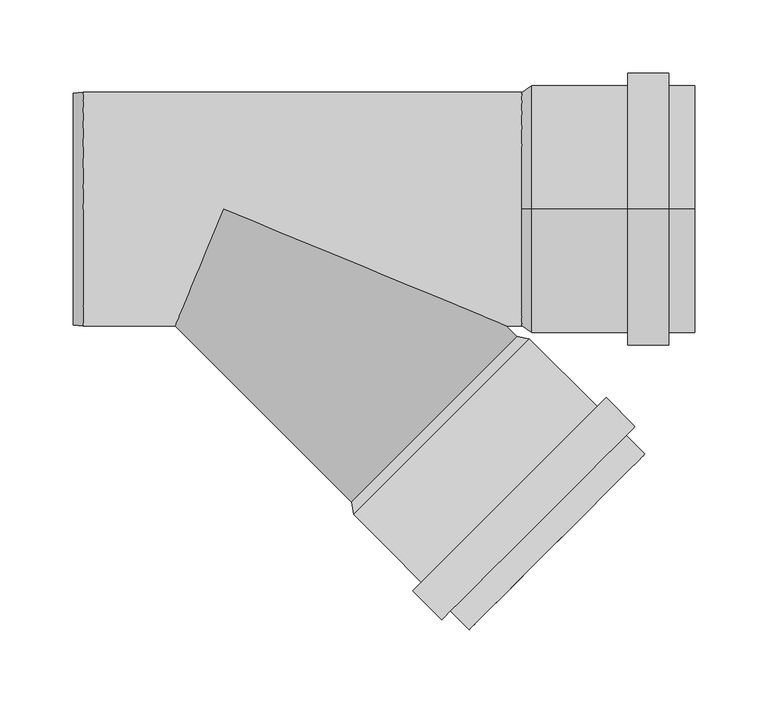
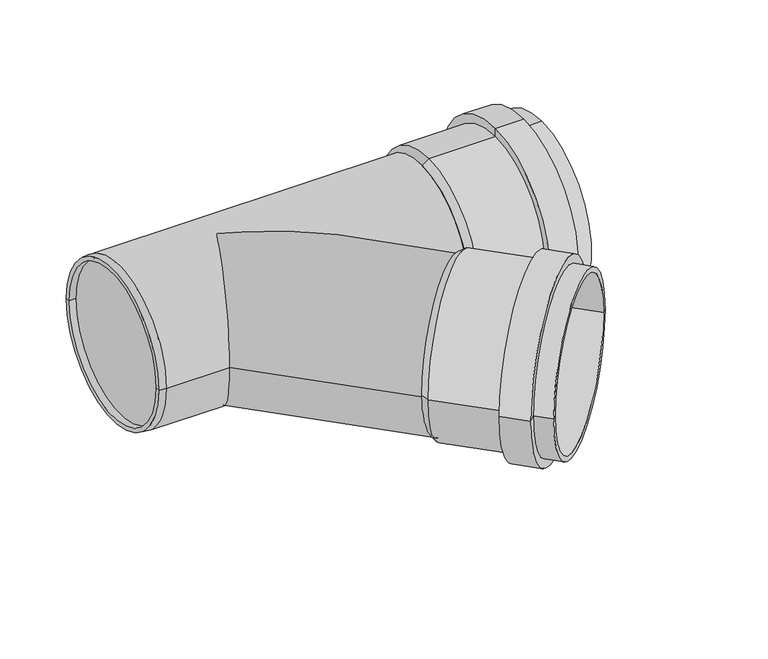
"""IFC4 building model written with IfcOpenShell, lengths in millimetres: pipe fitting geometry, OSMA_KG2000_PPKGEA : Odbočka 45°."""

from ifc_helpers import new_model, si_unit, frame, origin, place, context, project, spatial, polyline, circle_curve, ellipse_curve, source, transform, mapped, element, save
from ifc_brep_helpers import plane_surface, cylinder_surface, revolved_surface, advanced_brep


def pipe_fitting_2be269d6(model_context):
    return source(origin(), model_context, "Body", "AdvancedBrep", [
        advanced_brep(
        [(205.4145199, -92.2774349, 1.6299565), (92.2774349, -205.4145199, 1.6299565), (171.119841, -284.256926, 1.6299565), (284.256926, -171.119841, 1.6299565), (255.1948373, -135.1281059, 1.6299565), (135.1281059, -255.1948373, 1.6299565), (88.8126117, -208.8793432, 1.6299565), (208.8793432, -88.8126117, 1.6299565), (261.2759556, -129.0469876, 1.6299565), (129.0469876, -261.2759556, 1.6299565), (281.0749455, -148.8459774, 1.6299565), (148.8459774, -281.0749455, 1.6299565), (274.9938272, -154.9270958, 1.6299565), (154.9270958, -274.9938272, 1.6299565), (287.7217493, -167.6550178, 1.6299565), (167.6550178, -287.7217493, 1.6299565), (196.9999492, -90.7925107, 1.6299565), (90.7925107, -196.9999492, 1.6299565), (200.4647725, -87.3276875, 1.6299565), (87.3276875, -200.4647725, 1.6299565)],
        [
            (0, 1, circle_curve(frame((148.8459774, -148.8459774, 1.6299565), z_axis=(-0.7071067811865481, 0.7071067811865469, 0.0), x_axis=(-0.7071067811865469, -0.7071067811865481, 0.0)), 80.0)),
            (1, 2),
            (2, 3, circle_curve(frame((227.6883835, -227.6883835, 1.6299565), z_axis=(0.7071067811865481, -0.7071067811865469, 0.0), x_axis=(-0.7071067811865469, -0.7071067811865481, 0.0)), 80.0)),
            (3, 0),
            (1, 0, circle_curve(frame((148.8459774, -148.8459774, 1.6299565), z_axis=(-0.7071067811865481, 0.7071067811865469, 0.0), x_axis=(-0.7071067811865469, -0.7071067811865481, 0.0)), 80.0)),
            (3, 2, circle_curve(frame((227.6883835, -227.6883835, 1.6299565), z_axis=(0.7071067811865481, -0.7071067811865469, 0.0), x_axis=(-0.7071067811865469, -0.7071067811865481, 0.0)), 80.0)),
            (4, 5, circle_curve(frame((195.1614716, -195.1614716, 1.6299565), z_axis=(-0.7071067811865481, 0.7071067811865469, 0.0), x_axis=(-0.7071067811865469, -0.7071067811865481, 0.0)), 84.9)),
            (5, 6),
            (6, 7, circle_curve(frame((148.8459774, -148.8459774, 1.6299565), z_axis=(0.7071067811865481, -0.7071067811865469, 0.0), x_axis=(-0.7071067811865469, -0.7071067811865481, 0.0)), 84.9)),
            (7, 4),
            (5, 4, circle_curve(frame((195.1614716, -195.1614716, 1.6299565), z_axis=(-0.7071067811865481, 0.7071067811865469, 0.0), x_axis=(-0.7071067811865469, -0.7071067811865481, 0.0)), 84.9)),
            (7, 6, circle_curve(frame((148.8459774, -148.8459774, 1.6299565), z_axis=(0.7071067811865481, -0.7071067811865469, 0.0), x_axis=(-0.7071067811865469, -0.7071067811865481, 0.0)), 84.9)),
            (8, 9, circle_curve(frame((195.1614716, -195.1614716, 1.6299565), z_axis=(-0.7071067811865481, 0.7071067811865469, 0.0), x_axis=(-0.7071067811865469, -0.7071067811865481, 0.0)), 93.5)),
            (9, 5),
            (4, 8),
            (9, 8, circle_curve(frame((195.1614716, -195.1614716, 1.6299565), z_axis=(-0.7071067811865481, 0.7071067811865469, 0.0), x_axis=(-0.7071067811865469, -0.7071067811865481, 0.0)), 93.5)),
            (10, 11, circle_curve(frame((214.9604615, -214.9604615, 1.6299565), z_axis=(-0.7071067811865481, 0.7071067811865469, 0.0), x_axis=(-0.7071067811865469, -0.7071067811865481, 0.0)), 93.5)),
            (11, 9),
            (8, 10),
            (11, 10, circle_curve(frame((214.9604615, -214.9604615, 1.6299565), z_axis=(-0.7071067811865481, 0.7071067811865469, 0.0), x_axis=(-0.7071067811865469, -0.7071067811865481, 0.0)), 93.5)),
            (12, 13, circle_curve(frame((214.9604615, -214.9604615, 1.6299565), z_axis=(-0.7071067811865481, 0.7071067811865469, 0.0), x_axis=(-0.7071067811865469, -0.7071067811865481, 0.0)), 84.9)),
            (13, 11),
            (10, 12),
            (13, 12, circle_curve(frame((214.9604615, -214.9604615, 1.6299565), z_axis=(-0.7071067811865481, 0.7071067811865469, 0.0), x_axis=(-0.7071067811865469, -0.7071067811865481, 0.0)), 84.9)),
            (14, 15, circle_curve(frame((227.6883835, -227.6883835, 1.6299565), z_axis=(-0.7071067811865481, 0.7071067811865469, 0.0), x_axis=(-0.7071067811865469, -0.7071067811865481, 0.0)), 84.9)),
            (15, 13),
            (12, 14),
            (15, 14, circle_curve(frame((227.6883835, -227.6883835, 1.6299565), z_axis=(-0.7071067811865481, 0.7071067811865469, 0.0), x_axis=(-0.7071067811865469, -0.7071067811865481, 0.0)), 84.9)),
            (2, 15),
            (14, 3),
            (16, 17, circle_curve(frame((143.89623, -143.89623, 1.6299565), z_axis=(-0.7071067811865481, 0.7071067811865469, 0.0), x_axis=(-0.7071067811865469, -0.7071067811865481, 0.0)), 75.1)),
            (17, 1),
            (0, 16),
            (17, 16, circle_curve(frame((143.89623, -143.89623, 1.6299565), z_axis=(-0.7071067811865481, 0.7071067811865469, 0.0), x_axis=(-0.7071067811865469, -0.7071067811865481, 0.0)), 75.1)),
            (18, 19, circle_curve(frame((143.89623, -143.89623, 1.6299565), z_axis=(-0.7071067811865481, 0.7071067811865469, 0.0), x_axis=(-0.7071067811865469, -0.7071067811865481, 0.0)), 80.0)),
            (19, 17),
            (16, 18),
            (19, 18, circle_curve(frame((143.89623, -143.89623, 1.6299565), z_axis=(-0.7071067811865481, 0.7071067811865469, 0.0), x_axis=(-0.7071067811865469, -0.7071067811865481, 0.0)), 80.0)),
            (6, 19),
            (18, 7),
        ],
        [
            revolved_surface(polyline([(171.1198410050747, -284.2569259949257, 1.6299565), (92.27743490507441, -205.41451989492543, 1.6299565)]), (2115.2917066, -2115.2917066, 1.6299565), (0.7071067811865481, -0.7071067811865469, 0.0)),
            cylinder_surface(frame((2115.2917066, -2115.2917066, 1.6299565), z_axis=(0.7071067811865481, -0.7071067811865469, 0.0), x_axis=(-0.7071067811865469, -0.7071067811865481, 0.0)), 84.9),
            plane_surface(frame((195.1614716, -195.1614716, 1.6299565), z_axis=(-0.7071067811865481, 0.7071067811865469, 0.0), x_axis=(-0.7071067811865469, -0.7071067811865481, 0.0))),
            cylinder_surface(frame((2115.2917066, -2115.2917066, 1.6299565), z_axis=(0.7071067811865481, -0.7071067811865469, 0.0), x_axis=(-0.7071067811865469, -0.7071067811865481, 0.0)), 93.5),
            plane_surface(frame((214.9604615, -214.9604615, 1.6299565), z_axis=(0.7071067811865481, -0.7071067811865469, 0.0), x_axis=(-0.7071067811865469, -0.7071067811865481, 0.0))),
            plane_surface(frame((227.6883835, -227.6883835, 1.6299565), z_axis=(0.7071067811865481, -0.7071067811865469, 0.0), x_axis=(-0.7071067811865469, -0.7071067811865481, 0.0))),
            revolved_surface(polyline([(92.2774349, -205.4145199, 1.6299565), (90.7925107, -196.9999492, 1.6299565)]), (2115.2917066, -2115.2917066, 1.6299565), (0.7071067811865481, -0.7071067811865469, 0.0)),
            plane_surface(frame((143.89623, -143.89623, 1.6299565), z_axis=(-0.7071067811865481, 0.7071067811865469, 0.0), x_axis=(-0.7071067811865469, -0.7071067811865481, 0.0))),
            revolved_surface(polyline([(87.3276875, -200.4647725, 1.6299565), (88.8126117, -208.8793432, 1.6299565)]), (2115.2917066, -2115.2917066, 1.6299565), (0.7071067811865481, -0.7071067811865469, 0.0)),
        ],
        [
            (0, [[1, 2, 3, 4]]),
            (0, [[5, -4, 6, -2]]),
            (1, [[7, 8, 9, 10]]),
            (1, [[11, -10, 12, -8]]),
            (2, [[13, 14, -7, 15]]),
            (2, [[16, -15, -11, -14]]),
            (3, [[17, 18, -13, 19]]),
            (3, [[20, -19, -16, -18]]),
            (4, [[21, 22, -17, 23]]),
            (4, [[24, -23, -20, -22]]),
            (1, [[25, 26, -21, 27]]),
            (1, [[28, -27, -24, -26]]),
            (5, [[-3, 29, -25, 30]]),
            (5, [[-6, -30, -28, -29]]),
            (6, [[31, 32, -1, 33]]),
            (6, [[34, -33, -5, -32]]),
            (7, [[35, 36, -31, 37]]),
            (7, [[38, -37, -34, -36]]),
            (8, [[-9, 39, -35, 40]]),
            (8, [[-12, -40, -38, -39]]),
        ],
    ),
        advanced_brep(
        [(210.5, 0.0, -80.0), (210.5, 0.0, 80.0), (322.0, 0.0, 80.0), (322.0, 0.0, -80.0), (276.0, 0.0, -84.9), (276.0, 0.0, 84.9), (210.5, 0.0, 84.9), (210.5, 0.0, -84.9), (276.0, 0.0, -93.5), (276.0, 0.0, 93.5), (304.0, 0.0, -93.5), (304.0, 0.0, 93.5), (304.0, 0.0, -84.9), (304.0, 0.0, 84.9), (322.0, 0.0, -84.9), (322.0, 0.0, 84.9), (203.5, 0.0, -75.1), (203.5, 0.0, 75.1), (203.5, 0.0, -80.0), (203.5, 0.0, 80.0)],
        [
            (0, 1, circle_curve(frame((210.5, 0.0, 0.0), z_axis=(-1.0, 0.0, 0.0), x_axis=(0.0, 0.0, 1.0)), 80.0)),
            (1, 2),
            (2, 3, circle_curve(frame((322.0, 0.0, 0.0), z_axis=(1.0, 0.0, 0.0), x_axis=(0.0, 0.0, 1.0)), 80.0)),
            (3, 0),
            (1, 0, circle_curve(frame((210.5, 0.0, 0.0), z_axis=(-1.0, 0.0, 0.0), x_axis=(0.0, 0.0, 1.0)), 80.0)),
            (3, 2, circle_curve(frame((322.0, 0.0, 0.0), z_axis=(1.0, 0.0, 0.0), x_axis=(0.0, 0.0, 1.0)), 80.0)),
            (4, 5, circle_curve(frame((276.0, 0.0, 0.0), z_axis=(-1.0, 0.0, 0.0), x_axis=(0.0, 0.0, 1.0)), 84.9)),
            (5, 6),
            (6, 7, circle_curve(frame((210.5, 0.0, 0.0), z_axis=(1.0, 0.0, 0.0), x_axis=(0.0, 0.0, 1.0)), 84.9)),
            (7, 4),
            (5, 4, circle_curve(frame((276.0, 0.0, 0.0), z_axis=(-1.0, 0.0, 0.0), x_axis=(0.0, 0.0, 1.0)), 84.9)),
            (7, 6, circle_curve(frame((210.5, 0.0, 0.0), z_axis=(1.0, 0.0, 0.0), x_axis=(0.0, 0.0, 1.0)), 84.9)),
            (8, 9, circle_curve(frame((276.0, 0.0, 0.0), z_axis=(-1.0, 0.0, 0.0), x_axis=(0.0, 0.0, 1.0)), 93.5)),
            (9, 5),
            (4, 8),
            (9, 8, circle_curve(frame((276.0, 0.0, 0.0), z_axis=(-1.0, 0.0, 0.0), x_axis=(0.0, 0.0, 1.0)), 93.5)),
            (10, 11, circle_curve(frame((304.0, 0.0, 0.0), z_axis=(-1.0, 0.0, 0.0), x_axis=(0.0, 0.0, 1.0)), 93.5)),
            (11, 9),
            (8, 10),
            (11, 10, circle_curve(frame((304.0, 0.0, 0.0), z_axis=(-1.0, 0.0, 0.0), x_axis=(0.0, 0.0, 1.0)), 93.5)),
            (12, 13, circle_curve(frame((304.0, 0.0, 0.0), z_axis=(-1.0, 0.0, 0.0), x_axis=(0.0, 0.0, 1.0)), 84.9)),
            (13, 11),
            (10, 12),
            (13, 12, circle_curve(frame((304.0, 0.0, 0.0), z_axis=(-1.0, 0.0, 0.0), x_axis=(0.0, 0.0, 1.0)), 84.9)),
            (14, 15, circle_curve(frame((322.0, 0.0, 0.0), z_axis=(-1.0, 0.0, 0.0), x_axis=(0.0, 0.0, 1.0)), 84.9)),
            (15, 13),
            (12, 14),
            (15, 14, circle_curve(frame((322.0, 0.0, 0.0), z_axis=(-1.0, 0.0, 0.0), x_axis=(0.0, 0.0, 1.0)), 84.9)),
            (2, 15),
            (14, 3),
            (16, 17, circle_curve(frame((203.5, 0.0, 0.0), z_axis=(-1.0, 0.0, 0.0), x_axis=(0.0, 0.0, 1.0)), 75.1)),
            (17, 1),
            (0, 16),
            (17, 16, circle_curve(frame((203.5, 0.0, 0.0), z_axis=(-1.0, 0.0, 0.0), x_axis=(0.0, 0.0, 1.0)), 75.1)),
            (18, 19, circle_curve(frame((203.5, 0.0, 0.0), z_axis=(-1.0, 0.0, 0.0), x_axis=(0.0, 0.0, 1.0)), 80.0)),
            (19, 17),
            (16, 18),
            (19, 18, circle_curve(frame((203.5, 0.0, 0.0), z_axis=(-1.0, 0.0, 0.0), x_axis=(0.0, 0.0, 1.0)), 80.0)),
            (6, 19),
            (18, 7),
        ],
        [
            revolved_surface(polyline([(322.0, 0.0, 80.0), (210.5, 0.0, 80.0)]), (2991.4742198, 0.0, 0.0), (1.0, 0.0, 0.0)),
            cylinder_surface(frame((2991.4742198, 0.0, 0.0), z_axis=(1.0, 0.0, 0.0), x_axis=(0.0, 0.0, 1.0)), 84.9),
            plane_surface(frame((276.0, 0.0, 0.0), z_axis=(-1.0, 0.0, 0.0), x_axis=(0.0, 0.0, 1.0))),
            cylinder_surface(frame((2991.4742198, 0.0, 0.0), z_axis=(1.0, 0.0, 0.0), x_axis=(0.0, 0.0, 1.0)), 93.5),
            plane_surface(frame((304.0, 0.0, 0.0), z_axis=(1.0, 0.0, 0.0), x_axis=(0.0, 0.0, 1.0))),
            plane_surface(frame((322.0, 0.0, 0.0), z_axis=(1.0, 0.0, 0.0), x_axis=(0.0, 0.0, 1.0))),
            revolved_surface(polyline([(210.5, 0.0, 80.0), (203.5, 0.0, 75.1)]), (2991.4742198, 0.0, 0.0), (1.0, 0.0, 0.0)),
            plane_surface(frame((203.5, 0.0, 0.0), z_axis=(-1.0, 0.0, 0.0), x_axis=(0.0, 0.0, 1.0))),
            revolved_surface(polyline([(203.5, 0.0, 80.0), (210.5, 0.0, 84.9)]), (2991.4742198, 0.0, 0.0), (1.0, 0.0, 0.0)),
        ],
        [
            (0, [[1, 2, 3, 4]]),
            (0, [[5, -4, 6, -2]]),
            (1, [[7, 8, 9, 10]]),
            (1, [[11, -10, 12, -8]]),
            (2, [[13, 14, -7, 15]]),
            (2, [[16, -15, -11, -14]]),
            (3, [[17, 18, -13, 19]]),
            (3, [[20, -19, -16, -18]]),
            (4, [[21, 22, -17, 23]]),
            (4, [[24, -23, -20, -22]]),
            (1, [[25, 26, -21, 27]]),
            (1, [[28, -27, -24, -26]]),
            (5, [[-3, 29, -25, 30]]),
            (5, [[-6, -30, -28, -29]]),
            (6, [[31, 32, -1, 33]]),
            (6, [[34, -33, -5, -32]]),
            (7, [[35, 36, -31, 37]]),
            (7, [[38, -37, -34, -36]]),
            (8, [[-9, 39, -35, 40]]),
            (8, [[-12, -40, -38, -39]]),
        ],
    ),
        advanced_brep(
        [(89.8025612, -202.9396462, 0.0), (202.9396462, -89.8025612, 0.0), (193.137085, -80.0, 0.0), (0.0, 0.0, 80.0), (-33.137085, -80.0, 0.0), (0.0, 0.0, -80.0), (-103.0, -75.1, 0.0), (-103.0, 75.1, 0.0), (-103.0, 79.209508, 0.0), (-103.0, -79.209508, 0.0), (-96.0, -75.1, 0.0), (-96.0, 75.1, 0.0), (-96.0, 80.0, 0.0), (-96.0, -80.0, 0.0), (207.0, 80.0, 0.0), (207.0, -80.0, 0.0)],
        [
            (0, 1, circle_curve(frame((146.3711037, -146.3711037, 0.0), z_axis=(0.7071067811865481, -0.7071067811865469, 0.0), x_axis=(0.7071067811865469, 0.7071067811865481, 0.0)), 80.0)),
            (1, 0, circle_curve(frame((146.3711037, -146.3711037, 0.0), z_axis=(0.7071067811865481, -0.7071067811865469, 0.0), x_axis=(0.7071067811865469, 0.7071067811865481, 0.0)), 80.0)),
            (1, 2),
            (2, 3, ellipse_curve(frame((0.0, 0.0, 0.0), z_axis=(-0.3826834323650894, -0.923879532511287, 0.0), x_axis=(-0.923879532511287, 0.38268343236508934, 0.0)), 209.0500744, 80.0)),
            (3, 4, ellipse_curve(frame((0.0, 0.0, 0.0), z_axis=(0.923879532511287, -0.3826834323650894, 0.0), x_axis=(0.38268343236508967, 0.9238795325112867, 0.0)), 86.591376, 80.0)),
            (4, 0),
            (4, 5, ellipse_curve(frame((0.0, 0.0, 0.0), z_axis=(0.923879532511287, -0.3826834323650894, 0.0), x_axis=(0.38268343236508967, 0.9238795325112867, 0.0)), 86.591376, 80.0)),
            (5, 2, ellipse_curve(frame((0.0, 0.0, 0.0), z_axis=(-0.3826834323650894, -0.923879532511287, 0.0), x_axis=(-0.923879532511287, 0.38268343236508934, 0.0)), 209.0500744, 80.0)),
            (6, 7, circle_curve(frame((-103.0, 0.0, 0.0), z_axis=(1.0, 0.0, 0.0), x_axis=(0.0, 1.0, 0.0)), 75.1)),
            (7, 8),
            (8, 9, circle_curve(frame((-103.0, 0.0, 0.0), z_axis=(-1.0, 0.0, 0.0), x_axis=(0.0, 1.0, 0.0)), 79.209508)),
            (9, 6),
            (7, 6, circle_curve(frame((-103.0, 0.0, 0.0), z_axis=(1.0, 0.0, 0.0), x_axis=(0.0, 1.0, 0.0)), 75.1)),
            (9, 8, circle_curve(frame((-103.0, 0.0, 0.0), z_axis=(-1.0, 0.0, 0.0), x_axis=(0.0, 1.0, 0.0)), 79.209508)),
            (6, 10),
            (10, 11, circle_curve(frame((-96.0, 0.0, 0.0), z_axis=(1.0, 0.0, 0.0), x_axis=(0.0, 1.0, 0.0)), 75.1)),
            (11, 7),
            (11, 10, circle_curve(frame((-96.0, 0.0, 0.0), z_axis=(1.0, 0.0, 0.0), x_axis=(0.0, 1.0, 0.0)), 75.1)),
            (8, 12),
            (12, 13, circle_curve(frame((-96.0, 0.0, 0.0), z_axis=(-1.0, 0.0, 0.0), x_axis=(0.0, 1.0, 0.0)), 80.0)),
            (13, 9),
            (13, 12, circle_curve(frame((-96.0, 0.0, 0.0), z_axis=(-1.0, 0.0, 0.0), x_axis=(0.0, 1.0, 0.0)), 80.0)),
            (14, 15, circle_curve(frame((207.0, 0.0, 0.0), z_axis=(1.0, 0.0, 0.0), x_axis=(0.0, -1.0, 0.0)), 80.0)),
            (15, 14, circle_curve(frame((207.0, 0.0, 0.0), z_axis=(1.0, 0.0, 0.0), x_axis=(0.0, -1.0, 0.0)), 80.0)),
            (14, 12),
            (13, 4),
            (2, 15),
        ],
        [
            plane_surface(frame((146.3711037, -146.3711037, 0.0), z_axis=(0.7071067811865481, -0.7071067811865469, 0.0), x_axis=(0.0, 0.0, 1.0))),
            cylinder_surface(frame((0.0, 0.0, 0.0), z_axis=(-0.7071067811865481, 0.7071067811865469, 0.0), x_axis=(0.7071067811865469, 0.7071067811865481, 0.0)), 80.0),
            plane_surface(frame((-103.0, 0.0, 0.0), z_axis=(-1.0, 0.0, 0.0), x_axis=(0.0, 1.0, 0.0))),
            revolved_surface(polyline([(-103.0, 75.1, 0.0), (-96.0, 75.1, 0.0)]), (2116.0, 0.0, 0.0), (-1.0, 0.0, 0.0)),
            revolved_surface(polyline([(-96.0, 80.0, 0.0), (-103.0, 79.209508, 0.0)]), (2116.0, 0.0, 0.0), (-1.0, 0.0, 0.0)),
            plane_surface(frame((207.0, 0.0, 0.0), z_axis=(1.0, 0.0, 0.0), x_axis=(0.0, 0.0, 1.0))),
            plane_surface(frame((-96.0, 0.0, 0.0), z_axis=(-1.0, 0.0, 0.0), x_axis=(0.0, 0.0, 1.0))),
            cylinder_surface(frame((207.0, 0.0, 0.0), z_axis=(1.0, 0.0, 0.0), x_axis=(0.0, -1.0, 0.0)), 80.0),
        ],
        [
            (0, [[1, 2]]),
            (1, [[-2, 3, 4, 5, 6]]),
            (1, [[-1, -6, 7, 8, -3]]),
            (2, [[9, 10, 11, 12]]),
            (2, [[-10, 13, -12, 14]]),
            (3, [[-9, 15, 16, 17]]),
            (3, [[-13, -17, 18, -15]]),
            (4, [[-11, 19, 20, 21]]),
            (4, [[-14, -21, 22, -19]]),
            (5, [[23, 24]]),
            (6, [[-16, -18]]),
            (7, [[-23, 25, -22, 26, -5, -4, 27]]),
            (7, [[-24, -27, -8, -7, -26, -20, -25]]),
        ],
    ),
    ])


if __name__ == "__main__":
    model = new_model("IFC4")
    model_context = context("Model", 3, world=origin())
    ifc_project = project(units=[si_unit("LENGTHUNIT", "METRE", prefix="MILLI")], contexts=[model_context])
    site = spatial("IfcSite", under=ifc_project)
    building = spatial("IfcBuilding", under=site)
    placement = place(None, origin())
    pipe_fitting_shape = pipe_fitting_2be269d6(model_context)
    element("IfcPipeFitting", 1, ObjectType="OSMA_KG2000_PPKGEA : Odbočka 45°", at=placement, inside=building, context=model_context, shape_type="MappedRepresentation", body=[
        mapped(pipe_fitting_shape, transform((0.0, 0.0, 0.0), x_axis=(1.0, 0.0, 0.0), y_axis=(0.0, 1.0, 0.0), z_axis=(0.0, 0.0, 1.0))),
    ])
    save(model, "model.ifc")
